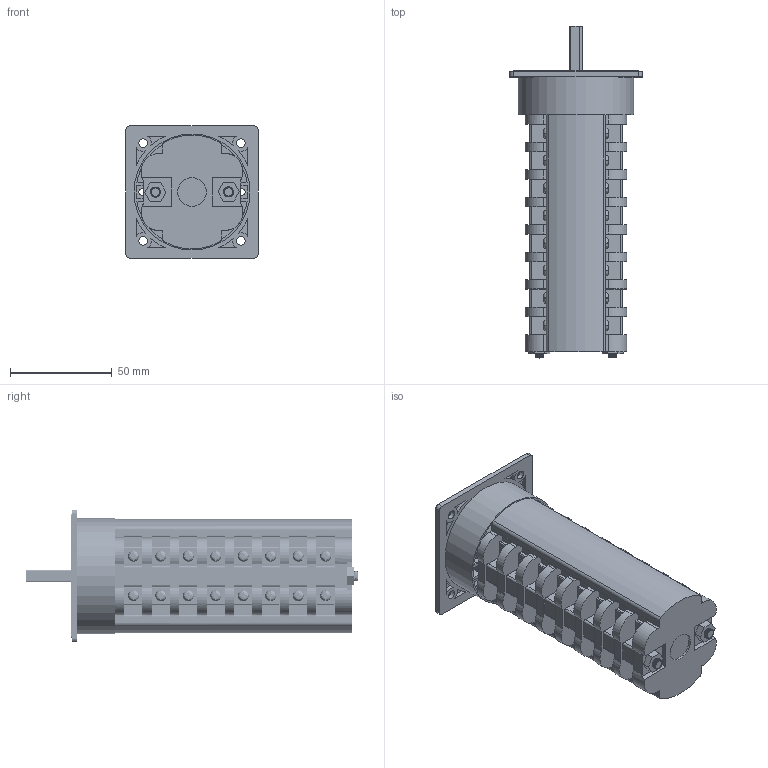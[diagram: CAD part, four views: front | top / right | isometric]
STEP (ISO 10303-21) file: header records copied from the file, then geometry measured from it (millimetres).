
FILE_DESCRIPTION(/* description */ (''),/* implementation_level */ '2;1');
FILE_NAME(/* name */ '4G16,25_standard_8_korpusow.stp',/* time_stamp */ '2021-07-21T14:01:31+02:00',/* author */ (''),/* organization */ (''),/* preprocessor_version */ 'ST-DEVELOPER v18.1',/* originating_system */ 'SIEMENS PLM Software NX 1965',/* authorisation */ '');
FILE_SCHEMA (('AUTOMOTIVE_DESIGN { 1 0 10303 214 3 1 1 1 }'));
Products named in the file (1): 4G16,25_standard_8_korpusow_stp
Bounding box: 65 x 163.2 x 65 mm (x, y, z)
Volume: 273386.1 mm3; surface area: 62265.1 mm2
Topology: 1 solids, 5 shells, 1675 faces, 4705 edges, 3110 vertices
Faces by surface type: plane 990, cylinder 462, bspline 158, cone 65
Full cylindrical faces by diameter (mm): 3.3 x3, 4 x4, 4.3 x4, 5 x2, 5.4 x32, 6.5 x2, 7.2 x4, 10 x1, 14 x1, 57 x1
Entity records: 155525 total; most frequent: CARTESIAN_POINT 114431, ORIENTED_EDGE 9072, DIRECTION 7707, EDGE_CURVE 4536, VERTEX_POINT 3033, AXIS2_PLACEMENT_3D 2749, LINE 2209, VECTOR 2209
